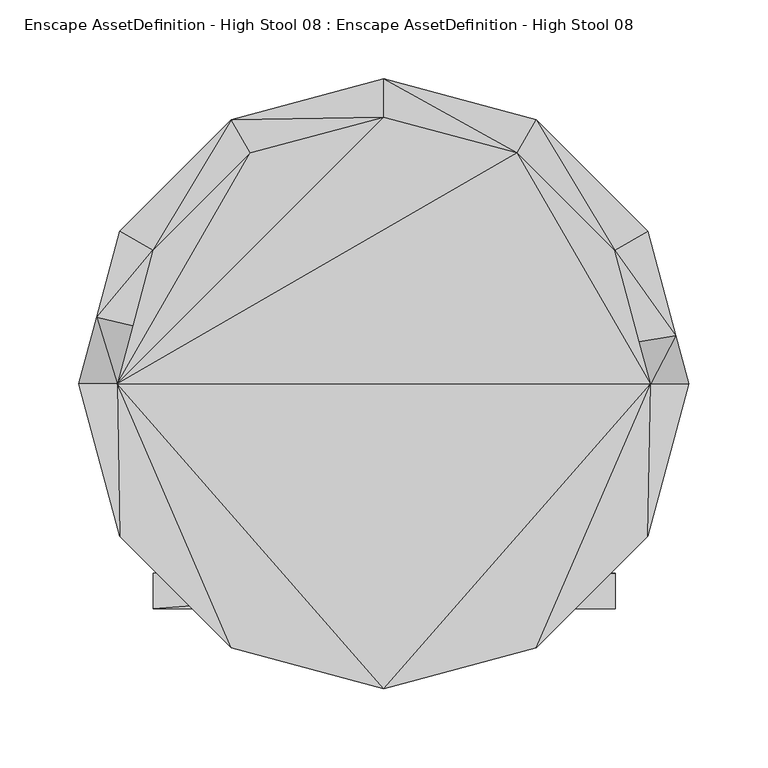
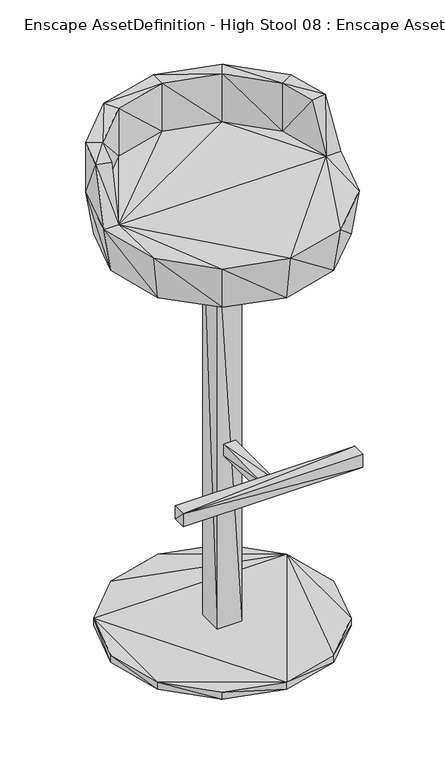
"""IFC4 building model written with IfcOpenShell, lengths in millimetres: geographic element geometry, Enscape AssetDefinition - High Stool 08 : Enscape AssetDefinition - High Stool 08."""

from ifc_helpers import new_model, si_unit, origin, place, context, project, spatial, faceted_brep, source, transform, mapped, element, save


def enscape_assetdefinition_high_stool_08_enscape_40338ee3(model_context):
    return source(origin(), model_context, "Body", "Brep", [
        faceted_brep([(-157.4435532, 90.8998549, 12.3594785), (0.0, -181.7997098, 12.3594785), (157.4435532, 90.8998549, 12.3594785), (0.0, -181.7997098, 0.0), (90.8998549, -157.4435532, 0.0), (-157.4435532, -90.8998549, 12.3594785), (-90.8998549, -157.4435532, 12.3594785), (90.8998549, -157.4435532, 12.3594785), (157.4435532, -90.8998549, 0.0), (-90.8998549, -157.4435532, 0.0), (-157.4435532, -90.8998549, 0.0), (-181.7997098, 0.0, 12.3594785), (0.0, 181.7997098, 0.0), (-181.7997098, 0.0, 0.0), (-157.4435532, 90.8998549, 0.0), (-90.8998549, 157.4435532, 0.0), (-90.8998549, 157.4435532, 12.3594785), (0.0, 181.7997098, 12.3594785), (90.8998549, 157.4435532, 12.3594785), (90.8998549, 157.4435532, 0.0), (157.4435532, 90.8998549, 0.0), (157.4435532, -90.8998549, 12.3594785), (181.7997098, 0.0, 12.3594785), (181.7997098, 0.0, 0.0)], [[[0, 1, 2]], [[3, 4, 1]], [[1, 5, 6]], [[2, 1, 7]], [[1, 0, 5]], [[6, 3, 1]], [[1, 4, 7]], [[4, 8, 7]], [[3, 8, 4]], [[9, 3, 6]], [[8, 3, 9]], [[5, 9, 6]], [[10, 9, 5]], [[5, 0, 11]], [[11, 10, 5]], [[8, 9, 10]], [[10, 12, 8]], [[13, 10, 11]], [[14, 10, 13]], [[12, 10, 14]], [[0, 13, 11]], [[14, 13, 0]], [[15, 14, 16]], [[12, 14, 15]], [[16, 14, 0]], [[2, 16, 0]], [[2, 17, 16]], [[17, 15, 16]], [[12, 15, 17]], [[17, 2, 18]], [[18, 12, 17]], [[19, 12, 18]], [[2, 19, 18]], [[8, 12, 19]], [[20, 19, 2]], [[8, 19, 20]], [[2, 7, 21]], [[2, 21, 22]], [[22, 20, 2]], [[23, 20, 22]], [[8, 20, 23]], [[8, 23, 21]], [[7, 8, 21]], [[21, 23, 22]]]),
        faceted_brep([(20.0901665, -20.0901665, 12.3594785), (-20.0901665, -20.0901665, 12.3594785), (20.0901665, 20.0901665, 12.3594785), (20.0901665, -20.0901665, 684.7369075), (20.0901665, 20.0901665, 684.7369075), (-20.0901665, -20.0901665, 684.7369075), (-20.0901665, 20.0901665, 12.3594785), (-20.0901665, 20.0901665, 684.7369075)], [[[0, 1, 2]], [[3, 4, 5]], [[2, 6, 4]], [[1, 0, 5]], [[6, 1, 7]], [[0, 2, 3]], [[2, 1, 6]], [[5, 4, 7]], [[4, 6, 7]], [[5, 0, 3]], [[7, 1, 5]], [[3, 2, 4]]]),
        faceted_brep([(9.7915214, -20.0073533, 328.1157315), (9.7915214, -20.0073533, 308.532685), (-9.7915214, -20.0073533, 328.1157315), (9.7915214, -131.3593835, 328.1157315), (-9.7915214, -131.3593835, 328.1157315), (9.7915214, -131.3593835, 308.532685), (-9.7915214, -20.0073533, 308.532685), (-9.7915214, -131.3593835, 308.532685)], [[[0, 1, 2]], [[3, 4, 5]], [[6, 1, 7]], [[0, 2, 3]], [[2, 6, 4]], [[1, 0, 5]], [[2, 1, 6]], [[5, 4, 7]], [[7, 1, 5]], [[3, 2, 4]], [[4, 6, 7]], [[5, 0, 3]]]),
        faceted_brep([(146.62911, -119.6947396, 329.5818567), (146.62911, -142.2109008, 329.5818567), (146.62911, -119.6947396, 307.0657253), (-146.0092068, -119.6947396, 329.5826614), (-146.0092068, -119.6947396, 307.0657253), (-146.0092068, -142.2109008, 329.5826614), (146.62911, -142.2109008, 307.0657253), (-146.0092068, -142.2109008, 307.0657253)], [[[0, 1, 2]], [[3, 4, 5]], [[6, 7, 2]], [[1, 0, 5]], [[1, 5, 6]], [[0, 2, 3]], [[2, 1, 6]], [[5, 4, 7]], [[2, 7, 4]], [[5, 0, 3]], [[6, 5, 7]], [[3, 2, 4]]]),
        faceted_brep([(-157.4435532, -90.8998549, 674.9595404), (0.0, 181.7997098, 674.9595404), (157.4435532, -90.8998549, 674.9595404), (0.0, 193.0857897, 746.0460663), (-96.5428948, 167.2177166, 746.0460663), (-157.4435532, 90.8998549, 674.9595404), (-90.8998549, 157.4435532, 674.9595404), (90.8998549, 157.4435532, 674.9595404), (96.5428948, 167.2177166, 746.0460663), (96.5428948, 167.2177166, 831.4637542), (0.0, 193.0857897, 831.4637542), (157.4435532, 90.8998549, 674.9595404), (167.2177166, 96.5428948, 746.0460663), (167.2177166, 96.5428948, 831.4637542), (84.4689235, 146.3041753, 831.4637542), (146.3041753, 84.4689235, 831.4637542), (0.0, 168.937847, 831.4637542), (-96.5428948, 167.2177166, 831.4637542), (84.4689235, 146.3041753, 749.0139008), (146.3041753, 84.4689235, 749.0139008), (-84.4689235, 146.3041753, 831.4637542), (0.0, 168.937847, 749.0139008), (168.937847, 0.0, 749.0139008), (-168.937847, 0.0, 749.0139008), (161.7789567, 26.7174859, 831.4637542), (184.9039793, 30.5362958, 831.4637542), (193.0857897, 0.0, 749.0139008), (181.7997098, 0.0, 674.9595404), (167.2177166, -96.5428948, 749.0139008), (96.5428948, -167.2177166, 749.0139008), (90.8998549, -157.4435532, 674.9595404), (0.0, -181.7997098, 674.9595404), (-90.8998549, -157.4435532, 674.9595404), (0.0, -193.0857897, 749.0139008), (-96.5428948, -167.2177166, 749.0139008), (-167.2177166, -96.5428948, 749.0139008), (-181.7997098, 0.0, 674.9595404), (-193.0857897, 0.0, 749.0139008), (-181.8044484, 42.1031453, 831.4637542), (-167.2177166, 96.5428948, 746.0460663), (-167.2177166, 96.5428948, 831.4637542), (-159.0666622, 36.8370973, 831.4637542), (-146.3041753, 84.4689235, 831.4637542), (-146.3041753, 84.4689235, 749.0139008), (-84.4689235, 146.3041753, 749.0139008)], [[[0, 1, 2]], [[3, 1, 4]], [[1, 5, 6]], [[2, 1, 7]], [[1, 0, 5]], [[4, 1, 6]], [[3, 7, 1]], [[8, 7, 3]], [[8, 3, 9]], [[3, 4, 10]], [[9, 3, 10]], [[11, 7, 12]], [[2, 7, 11]], [[12, 7, 8]], [[12, 8, 13]], [[13, 8, 9]], [[14, 15, 9]], [[9, 15, 13]], [[10, 14, 9]], [[16, 14, 10]], [[17, 16, 10]], [[10, 4, 17]], [[18, 19, 14]], [[14, 19, 15]], [[16, 18, 14]], [[20, 16, 17]], [[21, 18, 16]], [[20, 21, 16]], [[18, 22, 19]], [[23, 22, 18]], [[23, 18, 21]], [[15, 19, 24]], [[24, 19, 22]], [[24, 22, 25]], [[25, 15, 24]], [[26, 12, 25]], [[13, 15, 25]], [[25, 22, 26]], [[25, 12, 13]], [[26, 27, 12]], [[12, 27, 11]], [[28, 27, 26]], [[22, 28, 26]], [[2, 27, 28]], [[2, 11, 27]], [[29, 2, 28]], [[22, 29, 28]], [[30, 2, 29]], [[31, 2, 30]], [[2, 31, 32]], [[2, 32, 0]], [[33, 30, 29]], [[22, 33, 29]], [[23, 33, 22]], [[31, 30, 33]], [[34, 31, 33]], [[23, 34, 33]], [[32, 31, 34]], [[0, 32, 35]], [[35, 32, 34]], [[36, 0, 37]], [[5, 0, 36]], [[37, 0, 35]], [[23, 37, 35]], [[23, 35, 34]], [[37, 23, 38]], [[39, 36, 37]], [[38, 39, 37]], [[5, 36, 39]], [[6, 5, 4]], [[4, 5, 39]], [[4, 39, 17]], [[40, 39, 38]], [[17, 39, 40]], [[41, 42, 38]], [[38, 23, 41]], [[38, 42, 40]], [[40, 42, 17]], [[17, 42, 20]], [[43, 44, 42]], [[42, 44, 20]], [[41, 43, 42]], [[23, 43, 41]], [[23, 21, 44]], [[23, 44, 43]], [[44, 21, 20]]]),
    ])


if __name__ == "__main__":
    model = new_model("IFC4")
    model_context = context("Model", 3, world=origin())
    ifc_project = project(units=[si_unit("LENGTHUNIT", "METRE", prefix="MILLI")], contexts=[model_context])
    site = spatial("IfcSite", under=ifc_project)
    building = spatial("IfcBuilding", under=site)
    placement = place(None, origin())
    enscape_assetdefinition_high_stool_08_enscape_shape = enscape_assetdefinition_high_stool_08_enscape_40338ee3(model_context)
    element("IfcGeographicElement", 1, ObjectType="Enscape AssetDefinition - High Stool 08 : Enscape AssetDefinition - High Stool 08", at=placement, inside=building, context=model_context, shape_type="MappedRepresentation", body=[
        mapped(enscape_assetdefinition_high_stool_08_enscape_shape, transform((0.0, 0.0, 0.0), x_axis=(1.0, 0.0, 0.0), y_axis=(0.0, 1.0, 0.0), z_axis=(0.0, 0.0, 1.0))),
    ])
    save(model, "model.ifc")
